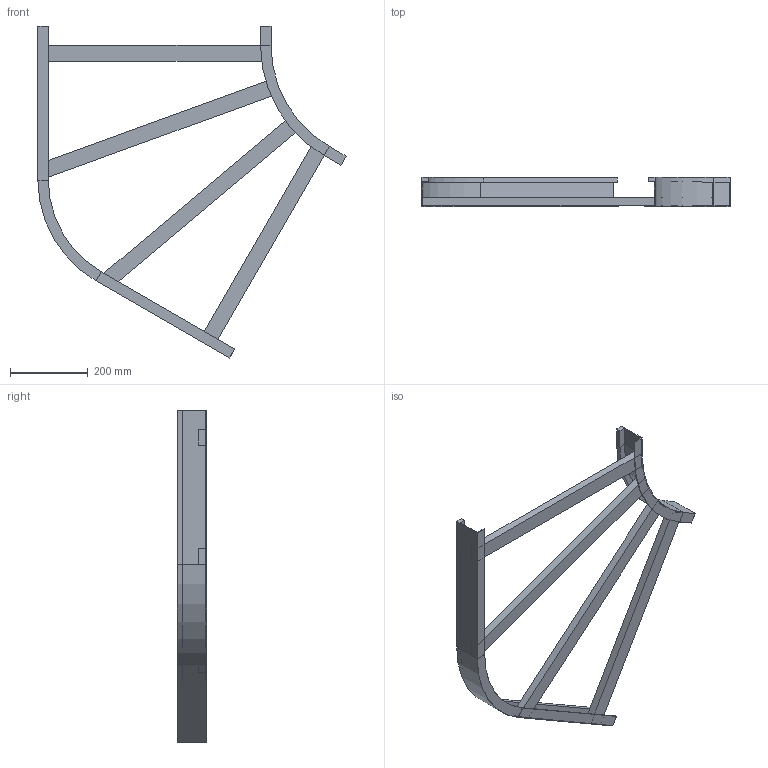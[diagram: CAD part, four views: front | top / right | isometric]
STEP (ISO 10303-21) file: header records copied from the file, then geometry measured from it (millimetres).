
FILE_DESCRIPTION (( 'STEP AP214' ), '1' );
FILE_NAME ('B2_13B3C600.step', '2025-02-21T15:21:54', ( '' ), ( '' ), 'SwSTEP 2.0', 'SolidWorks 2023', '' );
FILE_SCHEMA (( 'AUTOMOTIVE_DESIGN' ));
Length unit declared in the file: millimetre
Products named in the file (5): B2_LONGH.INTERNO 60°_H75_R300; TRAVERSINO_700_SCANTONATO; TRAVERSINO_600; B2_13B3C600; B2_LONGH.ESTERNO 60°_H75_R300+600
Assembly tree (6 placements, depth 2):
  B2_13B3C600
    B2_LONGH.INTERNO 60°_H75_R300
    B2_LONGH.ESTERNO 60°_H75_R300+600
    TRAVERSINO_600  x2
    TRAVERSINO_700_SCANTONATO  x2
Bounding box: 793.3 x 75 x 854.42 mm (x, y, z)
Volume: 2621785.1 mm3; surface area: 669715.1 mm2
Topology: 6 solids, 6 shells, 76 faces, 160 edges, 96 vertices
Faces by surface type: plane 68, cylinder 8
Entity records: 1830 total; most frequent: DIRECTION 298, CARTESIAN_POINT 289, ORIENTED_EDGE 272, EDGE_CURVE 136, VECTOR 120, LINE 120, AXIS2_PLACEMENT_3D 89, VERTEX_POINT 80
